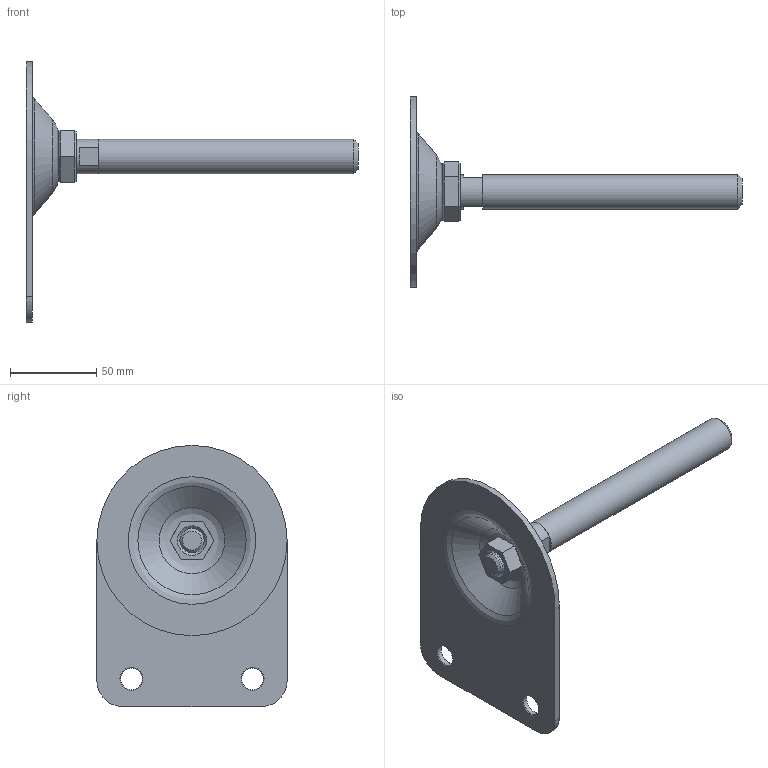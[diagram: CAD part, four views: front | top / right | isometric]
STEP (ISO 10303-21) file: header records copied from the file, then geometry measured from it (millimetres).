
FILE_DESCRIPTION(('STEP AP203'),'2;1');
FILE_NAME('15674Z-FIX.stp','2014-03-18T09:34:23',(''),(''),'2008.1.107','THINKDESIGN','');
FILE_SCHEMA(('CONFIG_CONTROL_DESIGN'));
Length unit declared in the file: millimetre
Bounding box: 192 x 110 x 151 mm (x, y, z)
Volume: 117710.5 mm3; surface area: 52441.5 mm2
Topology: 9 solids, 9 shells, 79 faces, 191 edges, 133 vertices
Faces by surface type: plane 39, bspline 26, cylinder 14
Full cylindrical faces by diameter (mm): 12.5 x2, 14 x4, 20 x4, 110 x1
Entity records: 3693 total; most frequent: CARTESIAN_POINT 1624, DIRECTION 386, ORIENTED_EDGE 380, EDGE_CURVE 190, AXIS2_PLACEMENT_3D 142, VERTEX_POINT 131, VECTOR 102, LINE 102
